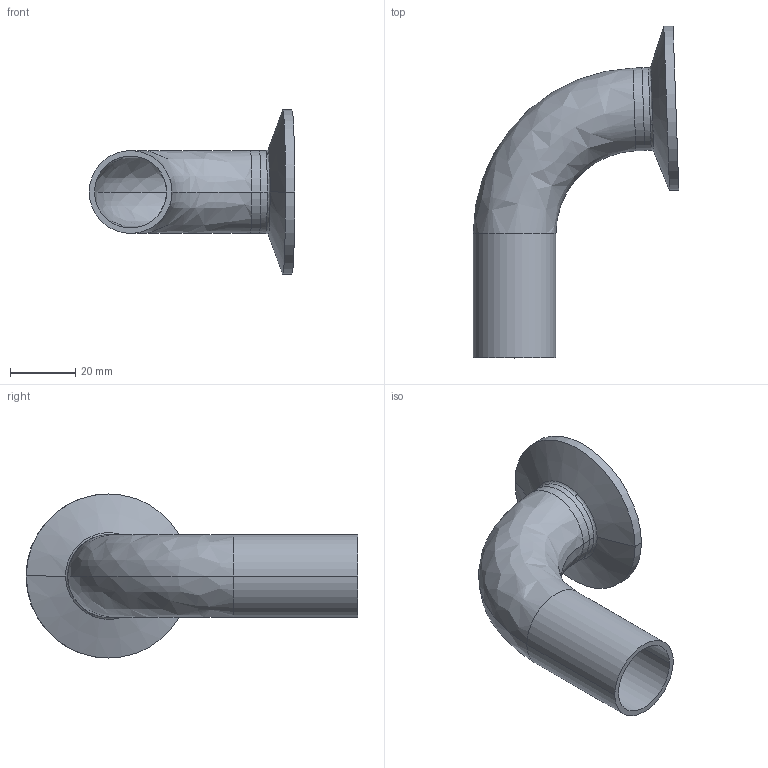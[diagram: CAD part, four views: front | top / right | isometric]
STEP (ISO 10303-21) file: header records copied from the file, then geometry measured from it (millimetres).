
FILE_DESCRIPTION (( 'STEP AP214' ), '1' );
FILE_NAME ('TE2C886L1.0-...STEP', '2016-05-22T07:54:24', ( 'eran' ), ( '' ), 'SwSTEP 2.0', 'SolidWorks 2016', '' );
FILE_SCHEMA (( 'AUTOMOTIVE_DESIGN' ));
Length unit declared in the file: millimetre
Products named in the file (1): TE2C886L1.0-..
Bounding box: 63.11 x 101.89 x 50.39 mm (x, y, z)
Volume: 20549.1 mm3; surface area: 19814.7 mm2
Topology: 2 solids, 2 shells, 39 faces, 92 edges, 58 vertices
Faces by surface type: bspline 14, cylinder 14, cone 6, plane 5
Entity records: 1745 total; most frequent: CARTESIAN_POINT 802, DIRECTION 204, ORIENTED_EDGE 184, EDGE_CURVE 92, AXIS2_PLACEMENT_3D 92, CIRCLE 66, VERTEX_POINT 58, EDGE_LOOP 44
